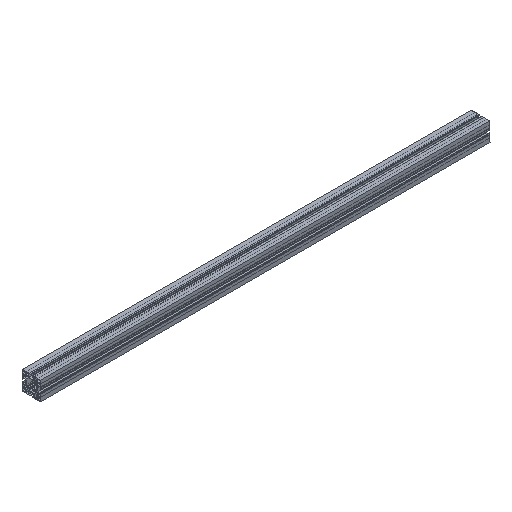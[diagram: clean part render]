
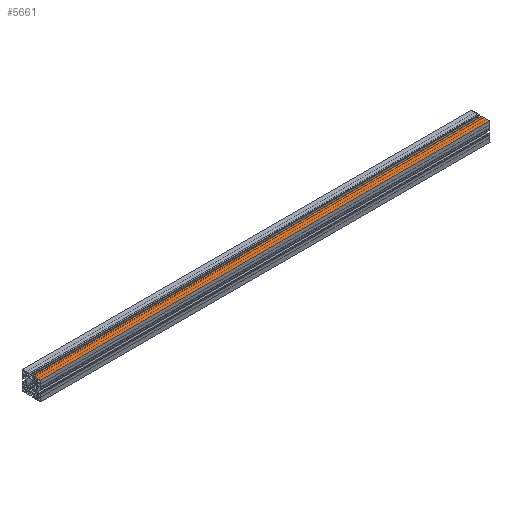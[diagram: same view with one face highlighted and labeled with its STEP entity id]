
A CAD part, isometric view. The second image highlights one B-rep face of the part: STEP entity #5661.
In plain terms, the highlighted planar face has unit normal (0, 0, 1).
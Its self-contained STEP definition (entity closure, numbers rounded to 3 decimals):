
#3006=ORIENTED_EDGE('',*,*,#4032,.T.);
#3007=ORIENTED_EDGE('',*,*,#4033,.F.);
#3008=ORIENTED_EDGE('',*,*,#4030,.F.);
#3009=ORIENTED_EDGE('',*,*,#3887,.T.);
#3307=VECTOR('',#4397,1.);
#3420=VECTOR('',#4634,1.);
#3422=VECTOR('',#4638,1.);
#3423=VECTOR('',#4639,1.);
#3503=LINE('',#4918,#3307);
#3616=LINE('',#5203,#3420);
#3618=LINE('',#5207,#3422);
#3619=LINE('',#5208,#3423);
#3702=VERTEX_POINT('',#4915);
#3703=VERTEX_POINT('',#4917);
#3813=VERTEX_POINT('',#5202);
#3814=VERTEX_POINT('',#5206);
#3887=EDGE_CURVE('',#3703,#3702,#3503,.T.);
#4030=EDGE_CURVE('',#3703,#3813,#3616,.T.);
#4032=EDGE_CURVE('',#3702,#3814,#3618,.T.);
#4033=EDGE_CURVE('',#3813,#3814,#3619,.T.);
#4174=EDGE_LOOP('',(#3006,#3007,#3008,#3009));
#4286=FACE_BOUND('',#4174,.T.);
#4397=DIRECTION('',(0.,25.75,0.));
#4634=DIRECTION('',(-1433.,0.,0.));
#4636=DIRECTION('',(0.,0.,1.));
#4637=DIRECTION('',(0.,-1.,0.));
#4638=DIRECTION('',(-1433.,0.,0.));
#4639=DIRECTION('',(0.,25.75,0.));
#4915=CARTESIAN_POINT('',(1433.,-4.25,30.));
#4917=CARTESIAN_POINT('',(1433.,-30.,30.));
#4918=CARTESIAN_POINT('',(1433.,-30.,30.));
#5202=CARTESIAN_POINT('',(0.,-30.,30.));
#5203=CARTESIAN_POINT('',(1433.,-30.,30.));
#5205=CARTESIAN_POINT('',(1868.,-4.25,30.));
#5206=CARTESIAN_POINT('',(0.,-4.25,30.));
#5207=CARTESIAN_POINT('',(1433.,-4.25,30.));
#5208=CARTESIAN_POINT('',(0.,-30.,30.));
#5481=AXIS2_PLACEMENT_3D('',#5205,#4636,#4637);
#5599=PLANE('',#5481);
#5661=ADVANCED_FACE('',(#4286),#5599,.T.);
